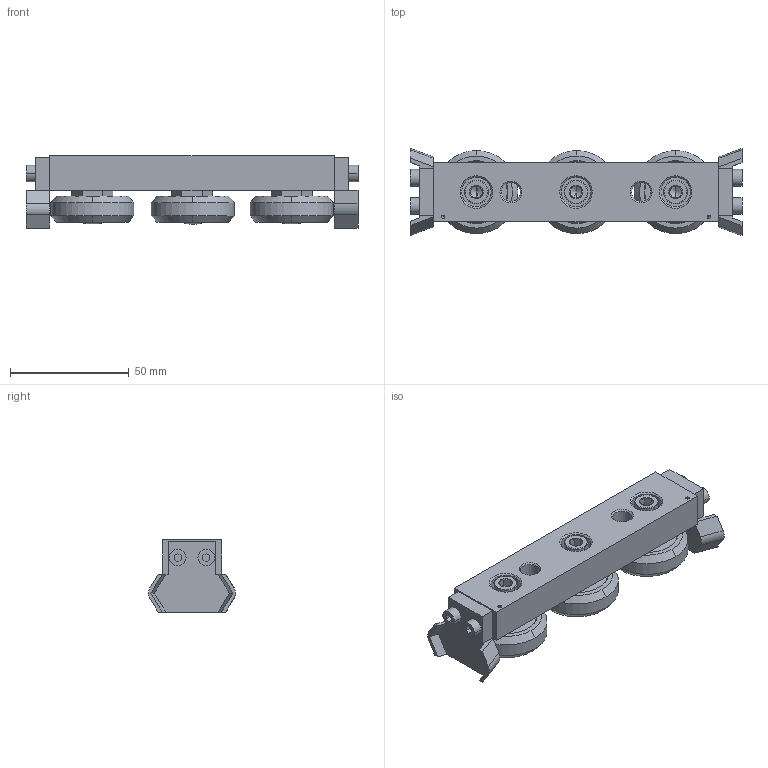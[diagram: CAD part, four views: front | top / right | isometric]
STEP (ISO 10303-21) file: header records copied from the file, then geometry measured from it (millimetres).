
FILE_DESCRIPTION (( 'STEP AP203' ), '1' );
FILE_NAME ('L1943.CSW43-120-2RST.step', '2019-03-13T08:15:42', ( '' ), ( '' ), 'SwSTEP 2.0', 'SolidWorks 2017', '' );
FILE_SCHEMA (( 'CONFIG_CONTROL_DESIGN' ));
Length unit declared in the file: millimetre
Products named in the file (6): L1943.CSW43-120-2RST; Part4; Part5; Part1_L1943.CSW43-120-2RST; Part6; Part8
Assembly tree (9 placements, depth 2):
  L1943.CSW43-120-2RST
    Part1_L1943.CSW43-120-2RST
    Part8  x3
    Part4  x2
    Part5
    Part6  x2
Bounding box: 140 x 36.78 x 30.5 mm (x, y, z)
Volume: 79424.4 mm3; surface area: 28669.8 mm2
Topology: 9 solids, 9 shells, 326 faces, 739 edges, 456 vertices
Faces by surface type: plane 161, cone 97, cylinder 58, torus 6, bspline 4
Entity records: 6482 total; most frequent: CARTESIAN_POINT 1216, DIRECTION 1005, ORIENTED_EDGE 882, EDGE_CURVE 441, AXIS2_PLACEMENT_3D 378, VERTEX_POINT 281, VECTOR 249, LINE 249
